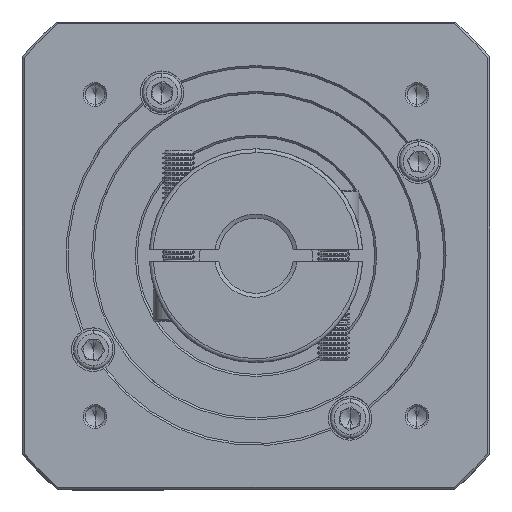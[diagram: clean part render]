
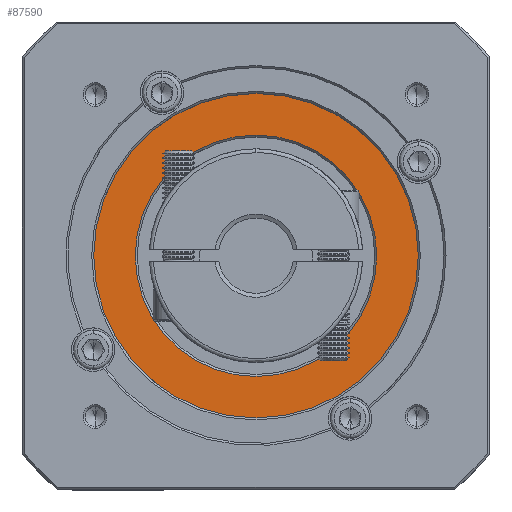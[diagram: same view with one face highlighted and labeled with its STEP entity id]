
A CAD part, top view. The second image highlights one B-rep face of the part: STEP entity #87590.
In plain terms, the highlighted planar face has unit normal (0, 0, 1).
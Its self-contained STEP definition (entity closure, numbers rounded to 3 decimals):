
#4652 = AXIS2_PLACEMENT_3D ( 'NONE', #121984, #101822, #103147 ) ;
#5435 = EDGE_CURVE ( 'NONE', #43216, #26743, #21328, .T. ) ;
#11454 = CARTESIAN_POINT ( 'NONE',  ( -32.033, -2.282, 219.502 ) ) ;
#11849 = AXIS2_PLACEMENT_3D ( 'NONE', #11454, #132182, #51214 ) ;
#16757 = CARTESIAN_POINT ( 'NONE',  ( -32.033, -2.282, 219.502 ) ) ;
#20360 = EDGE_CURVE ( 'NONE', #24147, #106474, #40424, .T. ) ;
#21328 = CIRCLE ( 'NONE', #4652, 30.5 ) ;
#23839 = CARTESIAN_POINT ( 'NONE',  ( -32.033, -2.282, 219.502 ) ) ;
#24147 = VERTEX_POINT ( 'NONE', #110866 ) ;
#26743 = VERTEX_POINT ( 'NONE', #60967 ) ;
#27026 = DIRECTION ( 'NONE',  ( 0., 0., 1. ) ) ;
#31370 = CARTESIAN_POINT ( 'NONE',  ( -32.033, -2.282, 219.502 ) ) ;
#31950 = EDGE_CURVE ( 'NONE', #26743, #43216, #78630, .T. ) ;
#40424 = CIRCLE ( 'NONE', #70397, 41. ) ;
#41633 = DIRECTION ( 'NONE',  ( 0., 0., 1. ) ) ;
#42383 = CIRCLE ( 'NONE', #81115, 41. ) ;
#42763 = ORIENTED_EDGE ( 'NONE', *, *, #20360, .T. ) ;
#43216 = VERTEX_POINT ( 'NONE', #71271 ) ;
#45505 = EDGE_LOOP ( 'NONE', ( #60248, #42763 ) ) ;
#51214 = DIRECTION ( 'NONE',  ( 0., 1., 0. ) ) ;
#52785 = DIRECTION ( 'NONE',  ( 0., 1., 0. ) ) ;
#54669 = DIRECTION ( 'NONE',  ( 0., 1., 0. ) ) ;
#60248 = ORIENTED_EDGE ( 'NONE', *, *, #88188, .T. ) ;
#60967 = CARTESIAN_POINT ( 'NONE',  ( -32.033, -32.782, 219.502 ) ) ;
#70397 = AXIS2_PLACEMENT_3D ( 'NONE', #16757, #27026, #98607 ) ;
#70475 = ORIENTED_EDGE ( 'NONE', *, *, #31950, .T. ) ;
#71271 = CARTESIAN_POINT ( 'NONE',  ( -32.033, 28.218, 219.502 ) ) ;
#76247 = FACE_BOUND ( 'NONE', #130074, .T. ) ;
#78630 = CIRCLE ( 'NONE', #11849, 30.5 ) ;
#81115 = AXIS2_PLACEMENT_3D ( 'NONE', #23839, #116047, #54669 ) ;
#86467 = ORIENTED_EDGE ( 'NONE', *, *, #5435, .T. ) ;
#87590 = ADVANCED_FACE ( 'NONE', ( #103496, #76247 ), #122621, .T. ) ;
#88188 = EDGE_CURVE ( 'NONE', #106474, #24147, #42383, .T. ) ;
#90546 = CARTESIAN_POINT ( 'NONE',  ( -32.033, 38.718, 219.502 ) ) ;
#98607 = DIRECTION ( 'NONE',  ( 0., 1., 0. ) ) ;
#101822 = DIRECTION ( 'NONE',  ( 0., 0., -1. ) ) ;
#103147 = DIRECTION ( 'NONE',  ( 0., 1., 0. ) ) ;
#103496 = FACE_OUTER_BOUND ( 'NONE', #45505, .T. ) ;
#106474 = VERTEX_POINT ( 'NONE', #90546 ) ;
#110866 = CARTESIAN_POINT ( 'NONE',  ( -32.033, -43.282, 219.502 ) ) ;
#116047 = DIRECTION ( 'NONE',  ( 0., 0., 1. ) ) ;
#121984 = CARTESIAN_POINT ( 'NONE',  ( -32.033, -2.282, 219.502 ) ) ;
#122621 = PLANE ( 'NONE',  #132426 ) ;
#130074 = EDGE_LOOP ( 'NONE', ( #86467, #70475 ) ) ;
#132182 = DIRECTION ( 'NONE',  ( 0., 0., -1. ) ) ;
#132426 = AXIS2_PLACEMENT_3D ( 'NONE', #31370, #41633, #52785 ) ;
